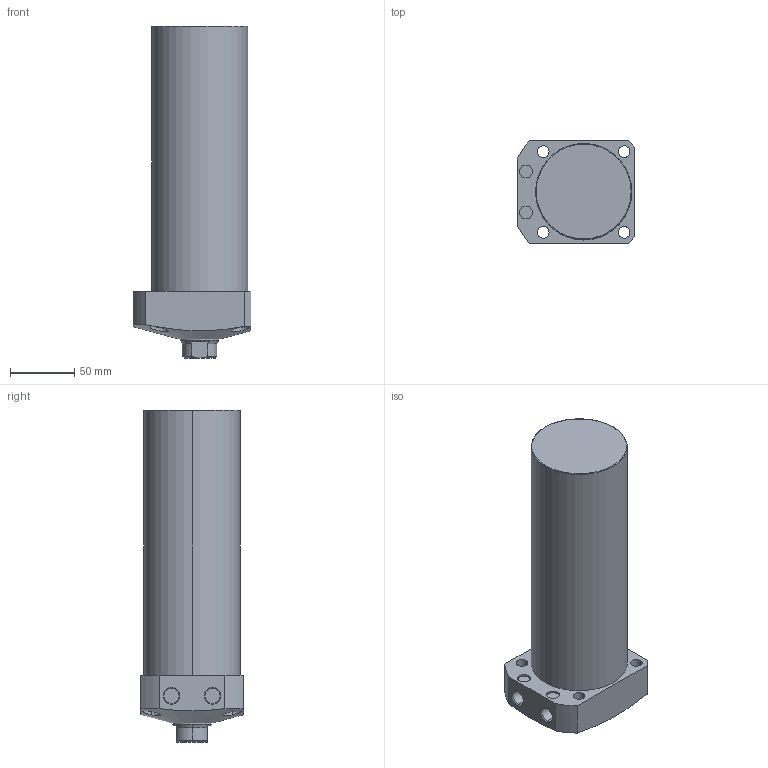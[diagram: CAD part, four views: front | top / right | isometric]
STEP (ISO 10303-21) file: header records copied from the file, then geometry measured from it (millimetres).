
FILE_DESCRIPTION (( 'STEP AP203' ), '1' );
FILE_NAME ('CLL-075CA-170.STEP', '2019-12-23T09:06:46', ( '' ), ( '' ), 'SwSTEP 2.0', 'SolidWorks 2015', '' );
FILE_SCHEMA (( 'CONFIG_CONTROL_DESIGN' ));
Length unit declared in the file: millimetre
Products named in the file (1): CLL-075CA-170
Bounding box: 92 x 80 x 259 mm (x, y, z)
Volume: 1133556 mm3; surface area: 81107.6 mm2
Topology: 1 solids, 1 shells, 74 faces, 171 edges, 108 vertices
Faces by surface type: cylinder 35, plane 22, cone 15, torus 2
Entity records: 2610 total; most frequent: CARTESIAN_POINT 815, DIRECTION 376, ORIENTED_EDGE 338, EDGE_CURVE 169, AXIS2_PLACEMENT_3D 156, VERTEX_POINT 108, EDGE_LOOP 93, CIRCLE 81
